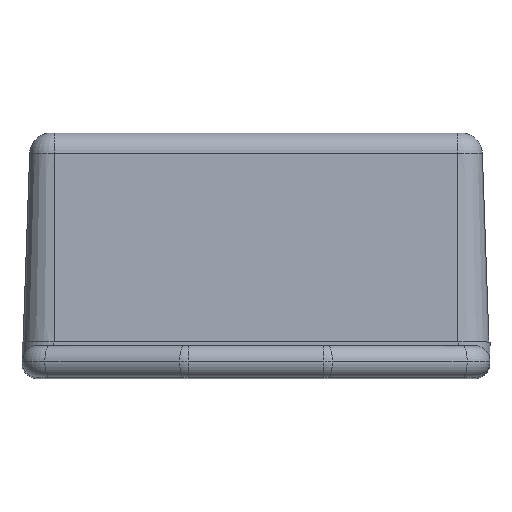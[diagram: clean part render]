
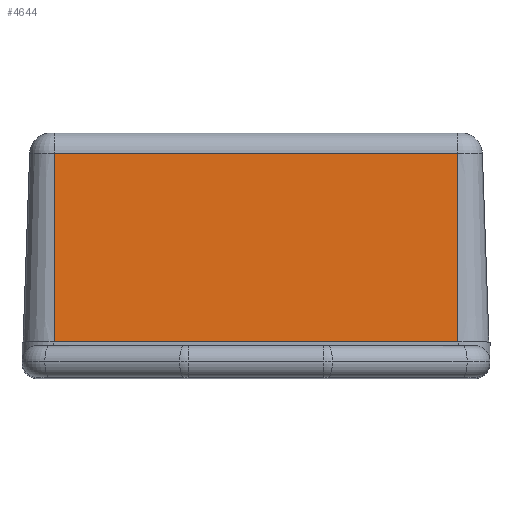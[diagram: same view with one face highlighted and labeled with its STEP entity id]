
A CAD part, top view. The second image highlights one B-rep face of the part: STEP entity #4644.
In plain terms, the highlighted planar face has unit normal (0, 0.035, 0.999) as drawn and (-0.999, 0.035, 0) by its records, which use the part's own axes.
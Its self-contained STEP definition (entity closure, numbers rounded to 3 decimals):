
#19 = VERTEX_POINT ( 'NONE', #89 ) ;
#89 = CARTESIAN_POINT ( 'NONE',  ( -35.419, 18.07, -19.3 ) ) ;
#106 = ORIENTED_EDGE ( 'NONE', *, *, #3219, .T. ) ;
#388 = VECTOR ( 'NONE', #5676, 1000. ) ;
#674 = VECTOR ( 'NONE', #4402, 1000. ) ;
#685 = LINE ( 'NONE', #3558, #388 ) ;
#1144 = CARTESIAN_POINT ( 'NONE',  ( -36.05, 0., -19.3 ) ) ;
#1283 = DIRECTION ( 'NONE',  ( -0.035, -0.999, 0. ) ) ;
#1492 = VERTEX_POINT ( 'NONE', #2599 ) ;
#1682 = AXIS2_PLACEMENT_3D ( 'NONE', #3538, #1748, #1283 ) ;
#1748 = DIRECTION ( 'NONE',  ( -0.999, 0.035, 0. ) ) ;
#1901 = VECTOR ( 'NONE', #4160, 1000. ) ;
#2054 = LINE ( 'NONE', #3036, #674 ) ;
#2284 = EDGE_CURVE ( 'NONE', #5874, #6105, #685, .T. ) ;
#2415 = ORIENTED_EDGE ( 'NONE', *, *, #2284, .F. ) ;
#2599 = CARTESIAN_POINT ( 'NONE',  ( -36.05, 0., -19.3 ) ) ;
#3036 = CARTESIAN_POINT ( 'NONE',  ( -36.05, 0., -19.3 ) ) ;
#3167 = VECTOR ( 'NONE', #3859, 1000. ) ;
#3219 = EDGE_CURVE ( 'NONE', #5874, #19, #5658, .T. ) ;
#3257 = EDGE_LOOP ( 'NONE', ( #2415, #106, #5858, #3370 ) ) ;
#3370 = ORIENTED_EDGE ( 'NONE', *, *, #3908, .T. ) ;
#3538 = CARTESIAN_POINT ( 'NONE',  ( -36.05, 0., -19.3 ) ) ;
#3558 = CARTESIAN_POINT ( 'NONE',  ( -36.05, 0., 19.3 ) ) ;
#3859 = DIRECTION ( 'NONE',  ( 0., 0., -1. ) ) ;
#3903 = CARTESIAN_POINT ( 'NONE',  ( -35.419, 18.07, 19.3 ) ) ;
#3908 = EDGE_CURVE ( 'NONE', #1492, #6105, #2054, .T. ) ;
#4100 = CARTESIAN_POINT ( 'NONE',  ( -36.05, 0., 19.3 ) ) ;
#4160 = DIRECTION ( 'NONE',  ( -0.035, -0.999, 0. ) ) ;
#4182 = FACE_OUTER_BOUND ( 'NONE', #3257, .T. ) ;
#4373 = EDGE_CURVE ( 'NONE', #19, #1492, #5656, .T. ) ;
#4402 = DIRECTION ( 'NONE',  ( 0., 0., 1. ) ) ;
#4509 = PLANE ( 'NONE',  #1682 ) ;
#4644 = ADVANCED_FACE ( 'NONE', ( #4182 ), #4509, .T. ) ;
#5436 = CARTESIAN_POINT ( 'NONE',  ( -35.419, 18.07, -19.3 ) ) ;
#5656 = LINE ( 'NONE', #1144, #1901 ) ;
#5658 = LINE ( 'NONE', #5436, #3167 ) ;
#5676 = DIRECTION ( 'NONE',  ( -0.035, -0.999, 0. ) ) ;
#5858 = ORIENTED_EDGE ( 'NONE', *, *, #4373, .T. ) ;
#5874 = VERTEX_POINT ( 'NONE', #3903 ) ;
#6105 = VERTEX_POINT ( 'NONE', #4100 ) ;
